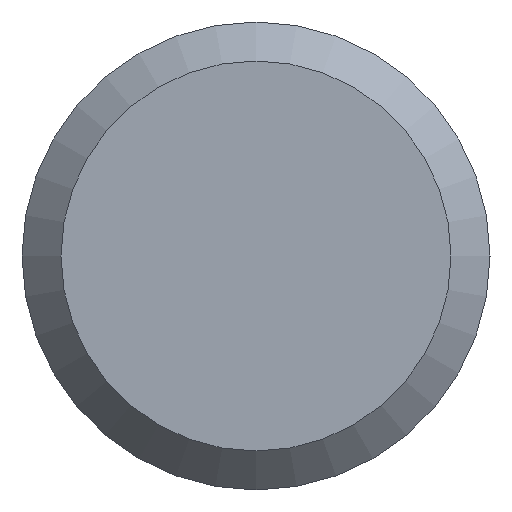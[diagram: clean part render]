
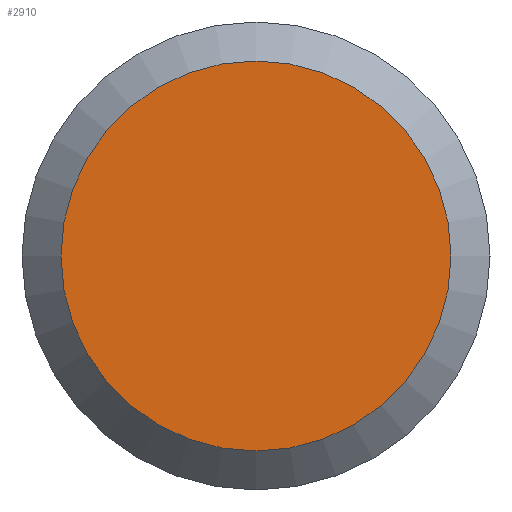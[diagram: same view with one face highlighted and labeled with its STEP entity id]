
A CAD part, left-side view. The second image highlights one B-rep face of the part: STEP entity #2910.
In plain terms, the highlighted planar face has unit normal (-1, 0, 0).
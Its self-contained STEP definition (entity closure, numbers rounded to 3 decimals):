
#1066=PLANE('',#2693);
#1106=ORIENTED_EDGE('',*,*,#1496,.F.);
#1300=CIRCLE('',#2692,2.5);
#1398=VERTEX_POINT('',#2394);
#1496=EDGE_CURVE('',#1398,#1398,#1300,.T.);
#1596=EDGE_LOOP('',(#1106));
#1792=FACE_BOUND('',#1596,.T.);
#1992=DIRECTION('',(1.,0.,0.));
#1993=DIRECTION('',(0.,-2.5,0.));
#1994=DIRECTION('',(-1.,0.,0.));
#1995=DIRECTION('',(0.,1.,0.));
#2394=CARTESIAN_POINT('',(61.747,152.422,0.));
#2395=CARTESIAN_POINT('',(61.747,154.922,0.));
#2396=CARTESIAN_POINT('',(61.747,154.922,0.));
#2692=AXIS2_PLACEMENT_3D('',#2395,#1992,#1993);
#2693=AXIS2_PLACEMENT_3D('',#2396,#1994,#1995);
#2910=ADVANCED_FACE('',(#1792),#1066,.T.);
